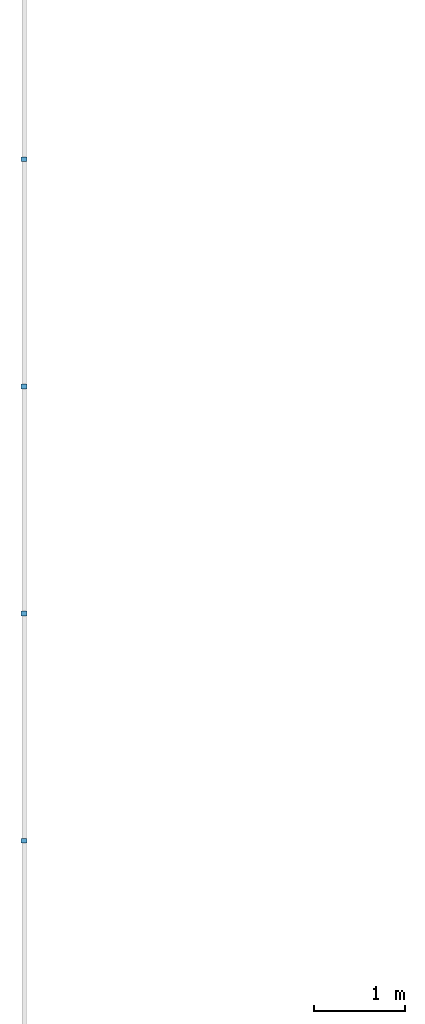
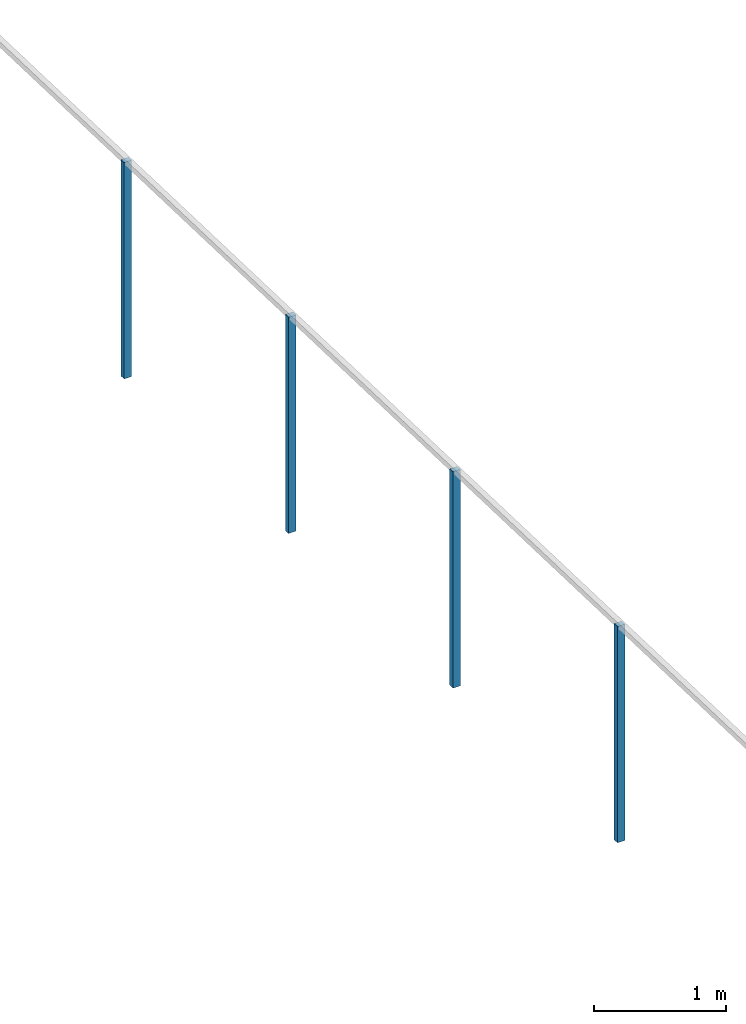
# One storey, part 54 of 91: 4 building element parts, 1 element without a shape of its own.
"""IFC2X3 building model written with IfcOpenShell, lengths in metres."""

from ifc_helpers import new_model, entity, si_unit, converted_unit, derived_unit, money_unit, direction, frame, origin_with_axes, place, context, subcontext, project, spatial, faceted_brep, material, type_object, element, aggregate, save


model = new_model("IFC2X3")

# Units and contexts
model_context = context("Model", 3, precision=1e-05, world=origin_with_axes(), true_north=direction((0.0, 1.0)))
body_context = subcontext(model_context, "Body", "Model", "MODEL_VIEW")
ifc_project = project(units=[si_unit("LENGTHUNIT", "METRE"), si_unit("AREAUNIT", "SQUARE_METRE"), si_unit("VOLUMEUNIT", "CUBIC_METRE"), converted_unit("PLANEANGLEUNIT", "DEGREE", entity("IfcPlaneAngleMeasure", 0.0174532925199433), si_unit("PLANEANGLEUNIT", "RADIAN"), dimensions=[0, 0, 0, 0, 0, 0, 0]), money_unit("EUR"), converted_unit("TIMEUNIT", "Year", entity("IfcTimeMeasure", 31557600.0), si_unit("TIMEUNIT", "SECOND"), dimensions=[0, 0, 1, 0, 0, 0, 0]), si_unit("MASSUNIT", "GRAM", prefix="KILO"), si_unit("THERMODYNAMICTEMPERATUREUNIT", "DEGREE_CELSIUS"), si_unit("LUMINOUSINTENSITYUNIT", "LUMEN"), si_unit("ENERGYUNIT", "JOULE", prefix="MEGA"), derived_unit("THERMALCONDUCTANCEUNIT", [(si_unit("POWERUNIT", "WATT"), 1), (si_unit("LENGTHUNIT", "METRE"), -1), (si_unit("THERMODYNAMICTEMPERATUREUNIT", "KELVIN"), -1)]), derived_unit("SPECIFICHEATCAPACITYUNIT", [(si_unit("ENERGYUNIT", "JOULE"), 1), (si_unit("MASSUNIT", "GRAM", prefix="KILO"), -1), (si_unit("THERMODYNAMICTEMPERATUREUNIT", "KELVIN"), -1)]), derived_unit("MASSDENSITYUNIT", [(si_unit("MASSUNIT", "GRAM", prefix="KILO"), 1), (si_unit("VOLUMEUNIT", "CUBIC_METRE"), -1)])], contexts=[model_context])

# Site, building, storey
site_placement = place(None, origin_with_axes())
site = spatial("IfcSite", under=ifc_project, at=site_placement, Name="Site", CompositionType="ELEMENT")
building_placement = place(site_placement, origin_with_axes())
building = spatial("IfcBuilding", under=site, at=building_placement, Name="Bâtiment", CompositionType="ELEMENT")
storey_placement = place(building_placement, origin_with_axes())
storey = spatial("IfcBuildingStorey", under=building, at=storey_placement, Name="RDC", CompositionType="ELEMENT", Elevation=0.0)

# Proxy, building element parts
building_element_proxy_type = type_object("IfcBuildingElementProxyType", Name="Type de garde-corps", PredefinedType="NOTDEFINED")
proxy_placement = place(storey_placement, frame((79.63337255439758, 3.614023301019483, -2.37161404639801), z_axis=(0.0, 0.0, 1.0), x_axis=(1.0, 0.0, 0.0)))
proxy = element("IfcBuildingElementProxy", 1, at=proxy_placement, inside=storey, type_object=building_element_proxy_type, Name="RAMPE-004")
ifc_material = material(Name="Acier Galva")
building_element_part_1_placement = place(proxy_placement, origin_with_axes())
building_element_part_1 = element("IfcBuildingElementPart", 2, at=building_element_part_1_placement, material=ifc_material, Name="Acier Galva", context=body_context, shape_type="Brep", body=[
    faceted_brep([(-79.72732482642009, -11.59281291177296, 3.857800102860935), (-79.66132482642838, -11.59281186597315, 3.857800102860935), (-79.66132482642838, -11.59281186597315, 5.857800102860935), (-79.72732482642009, -11.59281291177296, 5.857800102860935), (-79.72732561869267, -11.54281291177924, 3.856178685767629), (-79.66132561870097, -11.54281186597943, 3.856178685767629), (-79.66132561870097, -11.54281186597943, 5.856178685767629), (-79.72732561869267, -11.54281291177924, 5.856178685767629)], [[[0, 1, 2, 3]], [[0, 4, 5, 1]], [[1, 5, 6, 2]], [[3, 2, 6, 7]], [[4, 0, 3, 7]], [[5, 4, 7, 6]]]),
])
building_element_part_2_placement = place(proxy_placement, origin_with_axes())
building_element_part_2 = element("IfcBuildingElementPart", 3, at=building_element_part_2_placement, material=ifc_material, Name="Acier Galva", context=body_context, shape_type="Brep", body=[
    faceted_brep([(-79.72728535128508, -14.08407259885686, 3.938587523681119), (-79.66128535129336, -14.08407155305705, 3.938587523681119), (-79.66128535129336, -14.08407155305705, 5.938587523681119), (-79.72728535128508, -14.08407259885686, 5.938587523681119), (-79.72728614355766, -14.03407259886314, 3.936966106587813), (-79.66128614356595, -14.03407155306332, 3.936966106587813), (-79.66128614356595, -14.03407155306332, 5.936966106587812), (-79.72728614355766, -14.03407259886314, 5.936966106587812)], [[[0, 1, 2, 3]], [[0, 4, 5, 1]], [[1, 5, 6, 2]], [[3, 2, 6, 7]], [[4, 0, 3, 7]], [[5, 4, 7, 6]]]),
])
building_element_part_3_placement = place(proxy_placement, origin_with_axes())
building_element_part_3 = element("IfcBuildingElementPart", 4, at=building_element_part_3_placement, material=ifc_material, Name="Acier Galva", context=body_context, shape_type="Brep", body=[
    faceted_brep([(-79.72724587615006, -16.57533228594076, 4.019374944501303), (-79.66124587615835, -16.57533124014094, 4.019374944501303), (-79.66124587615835, -16.57533124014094, 6.019374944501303), (-79.72724587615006, -16.57533228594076, 6.019374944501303), (-79.72724666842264, -16.52533228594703, 4.017753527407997), (-79.66124666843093, -16.52533124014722, 4.017753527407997), (-79.66124666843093, -16.52533124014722, 6.017753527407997), (-79.72724666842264, -16.52533228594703, 6.017753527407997)], [[[0, 1, 2, 3]], [[0, 4, 5, 1]], [[1, 5, 6, 2]], [[3, 2, 6, 7]], [[4, 0, 3, 7]], [[5, 4, 7, 6]]]),
])
building_element_part_4_placement = place(proxy_placement, origin_with_axes())
building_element_part_4 = element("IfcBuildingElementPart", 5, at=building_element_part_4_placement, material=ifc_material, Name="Acier Galva", context=body_context, shape_type="Brep", body=[
    faceted_brep([(-79.72720640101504, -19.06659197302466, 4.100162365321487), (-79.66120640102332, -19.06659092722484, 4.100162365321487), (-79.66120640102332, -19.06659092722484, 6.100162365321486), (-79.72720640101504, -19.06659197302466, 6.100162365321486), (-79.72720719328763, -19.01659197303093, 4.09854094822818), (-79.66120719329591, -19.01659092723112, 4.09854094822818), (-79.66120719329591, -19.01659092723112, 6.09854094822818), (-79.72720719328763, -19.01659197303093, 6.09854094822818)], [[[0, 1, 2, 3]], [[0, 4, 5, 1]], [[1, 5, 6, 2]], [[3, 2, 6, 7]], [[4, 0, 3, 7]], [[5, 4, 7, 6]]]),
])
aggregate(proxy, [building_element_part_1, building_element_part_2, building_element_part_3, building_element_part_4])

save(model, "model.ifc")
